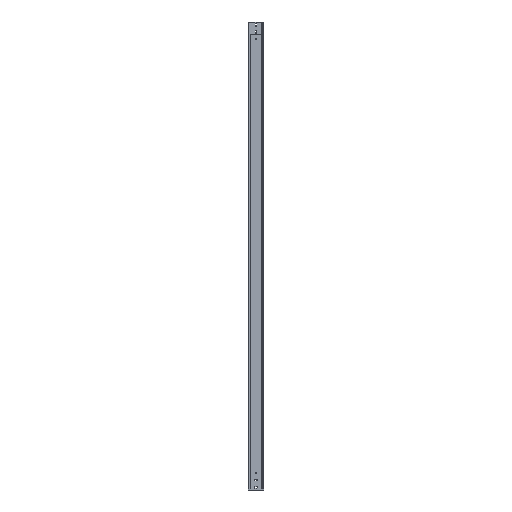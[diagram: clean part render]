
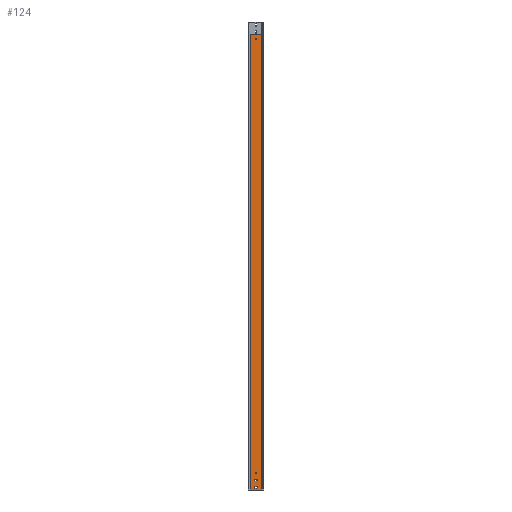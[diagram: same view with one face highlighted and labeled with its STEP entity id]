
A CAD part, left-side view. The second image highlights one B-rep face of the part: STEP entity #124.
In plain terms, the highlighted planar face has unit normal (-1, 0, 0).
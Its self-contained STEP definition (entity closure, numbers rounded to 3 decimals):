
#21 = CARTESIAN_POINT ( 'NONE',  ( 0., 84.666, 0. ) ) ;
#82 = CARTESIAN_POINT ( 'NONE',  ( 0., 0.5, 2920. ) ) ;
#93 = VERTEX_POINT ( 'NONE', #610 ) ;
#113 = ORIENTED_EDGE ( 'NONE', *, *, #675, .F. ) ;
#124 = ADVANCED_FACE ( 'NONE', ( #676, #3981, #4389, #1562, #2044 ), #4453, .T. ) ;
#205 = CARTESIAN_POINT ( 'NONE',  ( 0., 48., 30. ) ) ;
#218 = VECTOR ( 'NONE', #5488, 1000. ) ;
#249 = DIRECTION ( 'NONE',  ( -1., 0., 0. ) ) ;
#253 = CIRCLE ( 'NONE', #1840, 4.5 ) ;
#273 = DIRECTION ( 'NONE',  ( 0., 1., 0. ) ) ;
#311 = CARTESIAN_POINT ( 'NONE',  ( 0., 48., 2805.5 ) ) ;
#332 = CARTESIAN_POINT ( 'NONE',  ( 0., 84.666, 0. ) ) ;
#397 = LINE ( 'NONE', #928, #4563 ) ;
#450 = AXIS2_PLACEMENT_3D ( 'NONE', #5888, #249, #2149 ) ;
#467 = CARTESIAN_POINT ( 'NONE',  ( 0., 48., 2810. ) ) ;
#520 = CARTESIAN_POINT ( 'NONE',  ( 0., 42.5, 2852.5 ) ) ;
#567 = EDGE_CURVE ( 'NONE', #3971, #4832, #4414, .T. ) ;
#610 = CARTESIAN_POINT ( 'NONE',  ( 0., 53.5, 2852.5 ) ) ;
#658 = ORIENTED_EDGE ( 'NONE', *, *, #3506, .F. ) ;
#675 = EDGE_CURVE ( 'NONE', #1689, #3438, #2246, .T. ) ;
#676 = FACE_BOUND ( 'NONE', #5307, .T. ) ;
#687 = ORIENTED_EDGE ( 'NONE', *, *, #2967, .F. ) ;
#719 = CARTESIAN_POINT ( 'NONE',  ( 0., 53.5, 2861.5 ) ) ;
#757 = AXIS2_PLACEMENT_3D ( 'NONE', #4615, #783, #3656 ) ;
#761 = EDGE_LOOP ( 'NONE', ( #5853, #1730, #5136, #1843 ) ) ;
#783 = DIRECTION ( 'NONE',  ( -1., 0., 0. ) ) ;
#809 = EDGE_CURVE ( 'NONE', #3950, #4140, #4366, .T. ) ;
#825 = ORIENTED_EDGE ( 'NONE', *, *, #3990, .F. ) ;
#842 = VERTEX_POINT ( 'NONE', #6083 ) ;
#851 = EDGE_CURVE ( 'NONE', #93, #3793, #397, .T. ) ;
#928 = CARTESIAN_POINT ( 'NONE',  ( 0., 53.5, 2852.5 ) ) ;
#953 = AXIS2_PLACEMENT_3D ( 'NONE', #467, #2781, #2344 ) ;
#1018 = VERTEX_POINT ( 'NONE', #1922 ) ;
#1030 = DIRECTION ( 'NONE',  ( 0., 0., 1. ) ) ;
#1071 = DIRECTION ( 'NONE',  ( 0., 0., 1. ) ) ;
#1091 = DIRECTION ( 'NONE',  ( 0., 1., 0. ) ) ;
#1129 = LINE ( 'NONE', #5878, #4452 ) ;
#1135 = ORIENTED_EDGE ( 'NONE', *, *, #2614, .F. ) ;
#1158 = ORIENTED_EDGE ( 'NONE', *, *, #5652, .F. ) ;
#1313 = ORIENTED_EDGE ( 'NONE', *, *, #3866, .F. ) ;
#1413 = ORIENTED_EDGE ( 'NONE', *, *, #1677, .F. ) ;
#1423 = VERTEX_POINT ( 'NONE', #4387 ) ;
#1432 = CIRCLE ( 'NONE', #4316, 4.5 ) ;
#1514 = CARTESIAN_POINT ( 'NONE',  ( 0., 53.5, 2861.5 ) ) ;
#1562 = FACE_BOUND ( 'NONE', #2437, .T. ) ;
#1608 = CARTESIAN_POINT ( 'NONE',  ( 0., 53.5, 2898.5 ) ) ;
#1638 = VERTEX_POINT ( 'NONE', #4572 ) ;
#1643 = VERTEX_POINT ( 'NONE', #3117 ) ;
#1677 = EDGE_CURVE ( 'NONE', #1643, #1689, #4510, .T. ) ;
#1689 = VERTEX_POINT ( 'NONE', #4249 ) ;
#1730 = ORIENTED_EDGE ( 'NONE', *, *, #5277, .F. ) ;
#1840 = AXIS2_PLACEMENT_3D ( 'NONE', #2262, #5183, #5619 ) ;
#1843 = ORIENTED_EDGE ( 'NONE', *, *, #5993, .T. ) ;
#1922 = CARTESIAN_POINT ( 'NONE',  ( 0., 42.5, 2861.5 ) ) ;
#1979 = DIRECTION ( 'NONE',  ( 0., 0., 1. ) ) ;
#2044 = FACE_OUTER_BOUND ( 'NONE', #761, .T. ) ;
#2056 = DIRECTION ( 'NONE',  ( 0., -1., 0. ) ) ;
#2109 = DIRECTION ( 'NONE',  ( -1., 0., 0. ) ) ;
#2142 = CIRCLE ( 'NONE', #6104, 4.5 ) ;
#2149 = DIRECTION ( 'NONE',  ( 0., 0., -1. ) ) ;
#2246 = CIRCLE ( 'NONE', #757, 4.5 ) ;
#2247 = ORIENTED_EDGE ( 'NONE', *, *, #4870, .F. ) ;
#2262 = CARTESIAN_POINT ( 'NONE',  ( 0., 42.5, 2857. ) ) ;
#2344 = DIRECTION ( 'NONE',  ( 0., 0., 1. ) ) ;
#2367 = CARTESIAN_POINT ( 'NONE',  ( 0., 63.624, 0. ) ) ;
#2437 = EDGE_LOOP ( 'NONE', ( #113, #1413, #1135, #1313 ) ) ;
#2552 = VERTEX_POINT ( 'NONE', #311 ) ;
#2583 = DIRECTION ( 'NONE',  ( 0., 0., -1. ) ) ;
#2585 = LINE ( 'NONE', #1608, #3545 ) ;
#2614 = EDGE_CURVE ( 'NONE', #1423, #1643, #2142, .T. ) ;
#2778 = CARTESIAN_POINT ( 'NONE',  ( 0., 0.5, 0. ) ) ;
#2781 = DIRECTION ( 'NONE',  ( -1., 0., 0. ) ) ;
#2804 = VERTEX_POINT ( 'NONE', #3497 ) ;
#2811 = DIRECTION ( 'NONE',  ( 0., -1., 0. ) ) ;
#2967 = EDGE_CURVE ( 'NONE', #4475, #93, #4808, .T. ) ;
#3064 = CARTESIAN_POINT ( 'NONE',  ( 0., 0., 2920. ) ) ;
#3098 = EDGE_CURVE ( 'NONE', #842, #2804, #4616, .T. ) ;
#3117 = CARTESIAN_POINT ( 'NONE',  ( 0., 42.5, 2907.5 ) ) ;
#3353 = ORIENTED_EDGE ( 'NONE', *, *, #5671, .F. ) ;
#3438 = VERTEX_POINT ( 'NONE', #3510 ) ;
#3497 = CARTESIAN_POINT ( 'NONE',  ( 0., 48., 34.5 ) ) ;
#3506 = EDGE_CURVE ( 'NONE', #1638, #2552, #3625, .T. ) ;
#3510 = CARTESIAN_POINT ( 'NONE',  ( 0., 53.5, 2898.5 ) ) ;
#3545 = VECTOR ( 'NONE', #2056, 1000. ) ;
#3609 = DIRECTION ( 'NONE',  ( 0., 0., 1. ) ) ;
#3625 = CIRCLE ( 'NONE', #953, 4.5 ) ;
#3656 = DIRECTION ( 'NONE',  ( 0., 0., -1. ) ) ;
#3659 = CARTESIAN_POINT ( 'NONE',  ( 0., 77.652, 0. ) ) ;
#3694 = CARTESIAN_POINT ( 'NONE',  ( 0., 21.54, 0. ) ) ;
#3721 = CARTESIAN_POINT ( 'NONE',  ( 0., 42.582, 0. ) ) ;
#3775 = AXIS2_PLACEMENT_3D ( 'NONE', #3064, #5869, #1030 ) ;
#3793 = VERTEX_POINT ( 'NONE', #520 ) ;
#3818 = AXIS2_PLACEMENT_3D ( 'NONE', #205, #2109, #3982 ) ;
#3866 = EDGE_CURVE ( 'NONE', #3438, #1423, #2585, .T. ) ;
#3941 = CIRCLE ( 'NONE', #4537, 4.5 ) ;
#3950 = VERTEX_POINT ( 'NONE', #5855 ) ;
#3971 = VERTEX_POINT ( 'NONE', #82 ) ;
#3980 = DIRECTION ( 'NONE',  ( 0., 0., -1. ) ) ;
#3981 = FACE_BOUND ( 'NONE', #5754, .T. ) ;
#3982 = DIRECTION ( 'NONE',  ( 0., 0., 1. ) ) ;
#3990 = EDGE_CURVE ( 'NONE', #1018, #4475, #5014, .T. ) ;
#4077 = CARTESIAN_POINT ( 'NONE',  ( 0., 48., 2810. ) ) ;
#4096 = CARTESIAN_POINT ( 'NONE',  ( 0., 53.5, 2907.5 ) ) ;
#4140 = VERTEX_POINT ( 'NONE', #332 ) ;
#4249 = CARTESIAN_POINT ( 'NONE',  ( 0., 53.5, 2907.5 ) ) ;
#4312 = CARTESIAN_POINT ( 'NONE',  ( 0., 0., 2920. ) ) ;
#4316 = AXIS2_PLACEMENT_3D ( 'NONE', #4077, #5971, #3609 ) ;
#4366 = B_SPLINE_CURVE_WITH_KNOTS ( 'NONE', 3,
 ( #2778, #4653, #3694, #3721, #2367, #3659, #21 ),
 .UNSPECIFIED., .F., .F.,
 ( 4, 1, 1, 1, 4 ),
 ( 0., 0.25, 0.5, 0.75, 1. ),
 .UNSPECIFIED. ) ;
#4387 = CARTESIAN_POINT ( 'NONE',  ( 0., 42.5, 2898.5 ) ) ;
#4389 = FACE_BOUND ( 'NONE', #6030, .T. ) ;
#4414 = LINE ( 'NONE', #4312, #4907 ) ;
#4429 = CARTESIAN_POINT ( 'NONE',  ( 0., 48., 30. ) ) ;
#4446 = VECTOR ( 'NONE', #273, 1000. ) ;
#4452 = VECTOR ( 'NONE', #2583, 1000. ) ;
#4453 = PLANE ( 'NONE',  #3775 ) ;
#4475 = VERTEX_POINT ( 'NONE', #1514 ) ;
#4510 = LINE ( 'NONE', #4096, #218 ) ;
#4511 = CARTESIAN_POINT ( 'NONE',  ( 0., 0.5, 2920. ) ) ;
#4537 = AXIS2_PLACEMENT_3D ( 'NONE', #4429, #5254, #1071 ) ;
#4563 = VECTOR ( 'NONE', #2811, 1000. ) ;
#4572 = CARTESIAN_POINT ( 'NONE',  ( 0., 48., 2814.5 ) ) ;
#4592 = VECTOR ( 'NONE', #3980, 1000. ) ;
#4615 = CARTESIAN_POINT ( 'NONE',  ( 0., 53.5, 2903. ) ) ;
#4616 = CIRCLE ( 'NONE', #3818, 4.5 ) ;
#4653 = CARTESIAN_POINT ( 'NONE',  ( 0., 7.513, 0. ) ) ;
#4808 = CIRCLE ( 'NONE', #450, 4.5 ) ;
#4832 = VERTEX_POINT ( 'NONE', #5813 ) ;
#4862 = ORIENTED_EDGE ( 'NONE', *, *, #3098, .F. ) ;
#4870 = EDGE_CURVE ( 'NONE', #2804, #842, #3941, .T. ) ;
#4907 = VECTOR ( 'NONE', #1091, 1000. ) ;
#4941 = LINE ( 'NONE', #4511, #4592 ) ;
#5014 = LINE ( 'NONE', #719, #4446 ) ;
#5136 = ORIENTED_EDGE ( 'NONE', *, *, #567, .T. ) ;
#5183 = DIRECTION ( 'NONE',  ( -1., 0., 0. ) ) ;
#5188 = ORIENTED_EDGE ( 'NONE', *, *, #851, .F. ) ;
#5254 = DIRECTION ( 'NONE',  ( -1., 0., 0. ) ) ;
#5256 = CARTESIAN_POINT ( 'NONE',  ( 0., 42.5, 2903. ) ) ;
#5277 = EDGE_CURVE ( 'NONE', #3971, #3950, #4941, .T. ) ;
#5307 = EDGE_LOOP ( 'NONE', ( #4862, #2247 ) ) ;
#5488 = DIRECTION ( 'NONE',  ( 0., 1., 0. ) ) ;
#5619 = DIRECTION ( 'NONE',  ( 0., 0., 1. ) ) ;
#5652 = EDGE_CURVE ( 'NONE', #2552, #1638, #1432, .T. ) ;
#5671 = EDGE_CURVE ( 'NONE', #3793, #1018, #253, .T. ) ;
#5754 = EDGE_LOOP ( 'NONE', ( #658, #1158 ) ) ;
#5786 = DIRECTION ( 'NONE',  ( -1., 0., 0. ) ) ;
#5813 = CARTESIAN_POINT ( 'NONE',  ( 0., 84.666, 2920. ) ) ;
#5853 = ORIENTED_EDGE ( 'NONE', *, *, #809, .F. ) ;
#5855 = CARTESIAN_POINT ( 'NONE',  ( 0., 0.5, 0. ) ) ;
#5869 = DIRECTION ( 'NONE',  ( -1., 0., 0. ) ) ;
#5878 = CARTESIAN_POINT ( 'NONE',  ( 0., 84.666, 2920. ) ) ;
#5888 = CARTESIAN_POINT ( 'NONE',  ( 0., 53.5, 2857. ) ) ;
#5971 = DIRECTION ( 'NONE',  ( -1., 0., 0. ) ) ;
#5993 = EDGE_CURVE ( 'NONE', #4832, #4140, #1129, .T. ) ;
#6030 = EDGE_LOOP ( 'NONE', ( #687, #825, #3353, #5188 ) ) ;
#6083 = CARTESIAN_POINT ( 'NONE',  ( 0., 48., 25.5 ) ) ;
#6104 = AXIS2_PLACEMENT_3D ( 'NONE', #5256, #5786, #1979 ) ;
